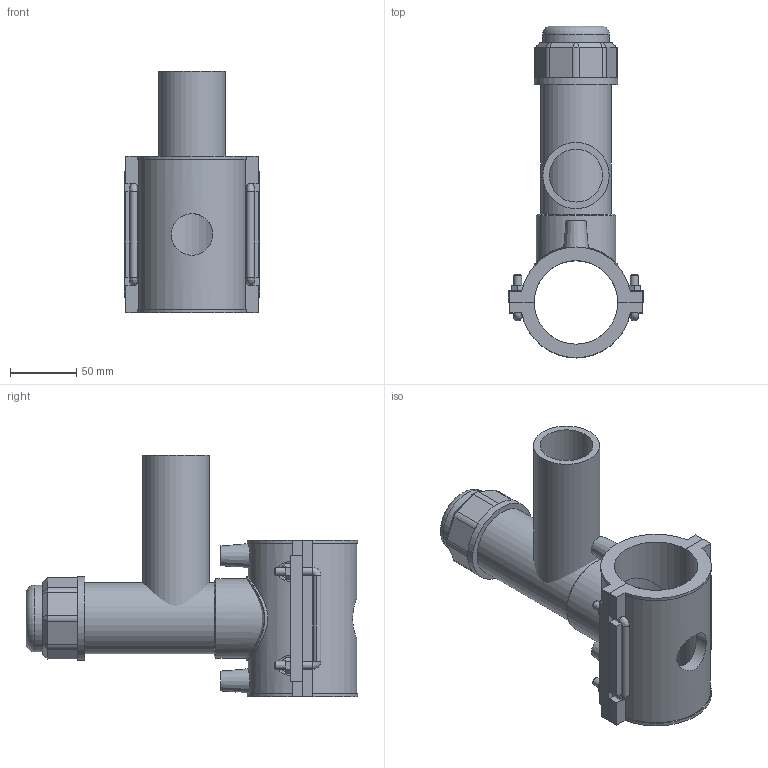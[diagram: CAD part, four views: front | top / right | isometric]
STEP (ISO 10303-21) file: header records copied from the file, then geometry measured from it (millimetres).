
FILE_DESCRIPTION(/* description */ (''),/* implementation_level */ '2;1');
FILE_NAME(/* name */ 'C:\Dropbox\KIMPROJECTS-Inventor 2019\99-16-3568-Processing\ElectroFusion Fittings\4963P4\stp\4963P4063050.stp',/* time_stamp */ '2022-03-17T11:25:47+02:00',/* author */ ('KIM'),/* organization */ (''),/* preprocessor_version */ 'ST-DEVELOPER v17.2',/* originating_system */ 'Autodesk Inventor 2019',/* authorisation */ '');
FILE_SCHEMA (('AUTOMOTIVE_DESIGN { 1 0 10303 214 3 1 1 }'));
Length unit declared in the file: millimetre
Products named in the file (1): 4963P4063050
Bounding box: 102 x 250.27 x 182 mm (x, y, z)
Volume: 627451.9 mm3; surface area: 174922.1 mm2
Topology: 3 solids, 3 shells, 181 faces, 470 edges, 301 vertices
Faces by surface type: plane 108, cylinder 48, cone 15, bspline 9, torus 1
Full cylindrical faces by diameter (mm): 4 x2, 6 x8, 10 x2, 31.36 x1, 40 x1, 44.1 x1, 50 x1, 50.4 x1, 53.55 x1, 59.85 x1, 63 x2
Entity records: 6533 total; most frequent: CARTESIAN_POINT 2046, ORIENTED_EDGE 924, DIRECTION 909, EDGE_CURVE 462, AXIS2_PLACEMENT_3D 307, VERTEX_POINT 301, LINE 295, VECTOR 295
